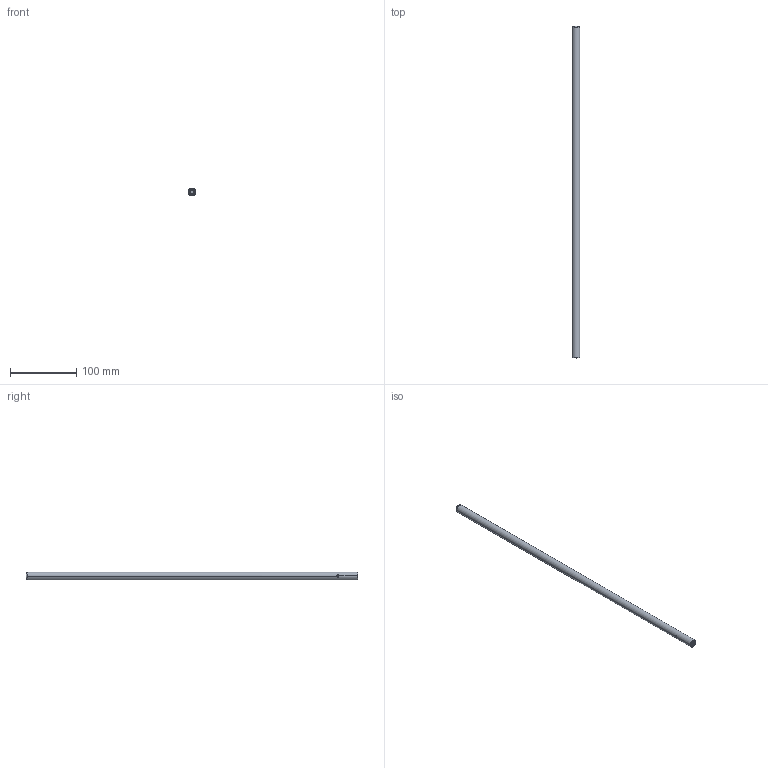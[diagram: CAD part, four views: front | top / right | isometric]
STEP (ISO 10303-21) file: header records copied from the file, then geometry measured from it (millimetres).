
FILE_DESCRIPTION((''),'2;1');
FILE_NAME('PCA50-S','2020-10-27T',('Administrator'),(''),'CREO PARAMETRIC BY PTC INC, 2015290','CREO PARAMETRIC BY PTC INC, 2015290','');
FILE_SCHEMA(('CONFIG_CONTROL_DESIGN'));
Length unit declared in the file: millimetre
Products named in the file (1): PCA50-S
Bounding box: 12 x 500 x 12 mm (x, y, z)
Volume: 55836.1 mm3; surface area: 19696.8 mm2
Topology: 1 solids, 1 shells, 100 faces, 258 edges, 160 vertices
Faces by surface type: cylinder 45, bspline 42, cone 9, plane 4
Entity records: 7223 total; most frequent: CARTESIAN_POINT 5172, ORIENTED_EDGE 516, EDGE_CURVE 258, DIRECTION 244, VERTEX_POINT 160, B_SPLINE_CURVE_WITH_KNOTS 151, EDGE_LOOP 102, FACE_OUTER_BOUND 100
